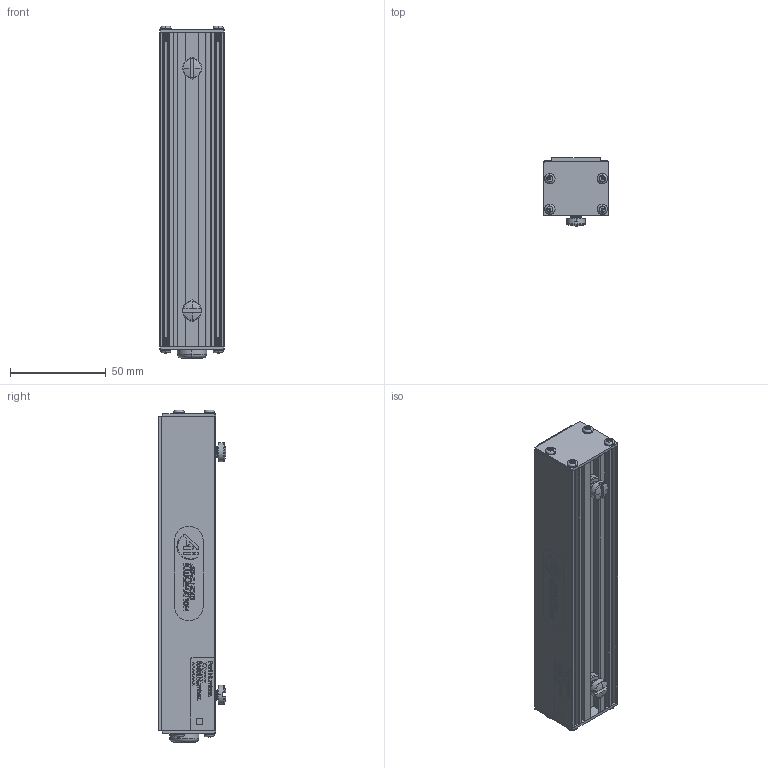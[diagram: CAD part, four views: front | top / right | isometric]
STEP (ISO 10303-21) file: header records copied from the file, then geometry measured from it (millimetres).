
FILE_DESCRIPTION (( 'STEP AP203' ), '1' );
FILE_NAME ('BL193.STEP', '2015-07-15T19:17:37', ( '' ), ( '' ), 'SwSTEP 2.0', 'SolidWorks 2015', '' );
FILE_SCHEMA (( 'CONFIG_CONTROL_DESIGN' ));
Length unit declared in the file: inch
Products named in the file (1): BL193
Bounding box: 33.86 x 35.42 x 173.79 mm (x, y, z)
Surface area: 38493.5 mm2 (no closed solid volume)
Topology: 0 solids, 93 shells, 844 faces, 3507 edges, 2704 vertices
Faces by surface type: plane 288, cylinder 222, bspline 151, cone 118, torus 57, sphere 8
Entity records: 50036 total; most frequent: CARTESIAN_POINT 24392, ORIENTED_EDGE 5122, DIRECTION 4426, EDGE_CURVE 3507, VERTEX_POINT 2704, VECTOR 1664, LINE 1664, AXIS2_PLACEMENT_3D 1381
